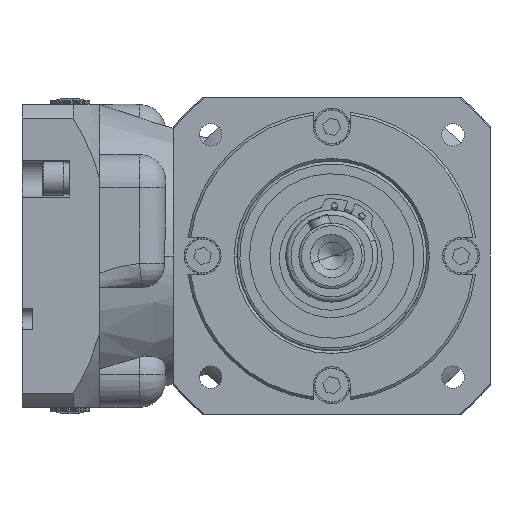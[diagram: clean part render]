
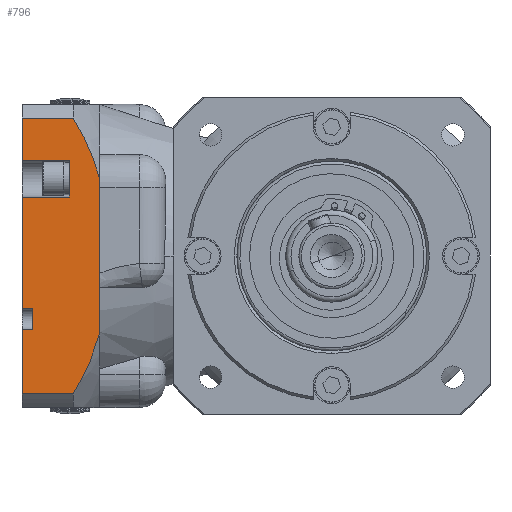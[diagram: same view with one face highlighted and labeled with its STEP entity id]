
A CAD part, left-side view. The second image highlights one B-rep face of the part: STEP entity #796.
In plain terms, the highlighted planar face has unit normal (-1, 0, 0).
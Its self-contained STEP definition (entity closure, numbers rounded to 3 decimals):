
#209 = CARTESIAN_POINT ( 'NONE',  ( 85., 117.5, 22.375 ) ) ;
#796 = ADVANCED_FACE ( 'NONE', ( #17863 ), #23139, .F. ) ;
#875 = EDGE_CURVE ( 'NONE', #26707, #29066, #37327, .T. ) ;
#916 = CARTESIAN_POINT ( 'NONE',  ( 85., 88., -29.16 ) ) ;
#958 = ORIENTED_EDGE ( 'NONE', *, *, #6795, .F. ) ;
#1107 = LINE ( 'NONE', #7243, #8616 ) ;
#1321 = CARTESIAN_POINT ( 'NONE',  ( 85., 89.223, -33.236 ) ) ;
#1537 = CARTESIAN_POINT ( 'NONE',  ( 85., 90.608, 37.231 ) ) ;
#1970 = EDGE_CURVE ( 'NONE', #12283, #29655, #33863, .T. ) ;
#2016 = CARTESIAN_POINT ( 'NONE',  ( 85., 93.885, -45.001 ) ) ;
#2153 = LINE ( 'NONE', #19684, #12631 ) ;
#2265 = DIRECTION ( 'NONE',  ( 0., -1., 0. ) ) ;
#2478 = EDGE_CURVE ( 'NONE', #4748, #4995, #39334, .T. ) ;
#2595 = DIRECTION ( 'NONE',  ( 0., -1., 0. ) ) ;
#2814 = CARTESIAN_POINT ( 'NONE',  ( 85., 117.5, -20. ) ) ;
#3881 = CARTESIAN_POINT ( 'NONE',  ( 85., 99.5, 22.375 ) ) ;
#4405 = CARTESIAN_POINT ( 'NONE',  ( 85., 113.5, -20. ) ) ;
#4439 = VERTEX_POINT ( 'NONE', #15933 ) ;
#4597 = LINE ( 'NONE', #24672, #21617 ) ;
#4730 = CARTESIAN_POINT ( 'NONE',  ( 85., 89.551, 34.223 ) ) ;
#4748 = VERTEX_POINT ( 'NONE', #39906 ) ;
#4995 = VERTEX_POINT ( 'NONE', #4405 ) ;
#5149 = CARTESIAN_POINT ( 'NONE',  ( 85., 88., 29.16 ) ) ;
#5931 = CARTESIAN_POINT ( 'NONE',  ( 85., 117.5, 52.334 ) ) ;
#6166 = B_SPLINE_CURVE_WITH_KNOTS ( 'NONE', 3,
 ( #17731, #8224, #33743, #30132, #1537, #4730, #11173, #24042, #40057, #5149 ),
 .UNSPECIFIED., .F., .F.,
 ( 4, 2, 2, 2, 4 ),
 ( 0.463, 0.475, 0.481, 0.485, 0.488 ),
 .UNSPECIFIED. ) ;
#6795 = EDGE_CURVE ( 'NONE', #24642, #4995, #2153, .T. ) ;
#6932 = VECTOR ( 'NONE', #34200, 1000. ) ;
#7118 = LINE ( 'NONE', #31047, #26613 ) ;
#7240 = EDGE_CURVE ( 'NONE', #15597, #29066, #7118, .T. ) ;
#7243 = CARTESIAN_POINT ( 'NONE',  ( 85., 117.5, 57.5 ) ) ;
#7469 = DIRECTION ( 'NONE',  ( 0., 1., 0. ) ) ;
#7590 = VECTOR ( 'NONE', #7469, 1000. ) ;
#8224 = CARTESIAN_POINT ( 'NONE',  ( 85., 95.834, 48.749 ) ) ;
#8596 = LINE ( 'NONE', #23545, #7590 ) ;
#8616 = VECTOR ( 'NONE', #29296, 1000. ) ;
#8749 = DIRECTION ( 'NONE',  ( 0., 0., 1. ) ) ;
#8974 = ORIENTED_EDGE ( 'NONE', *, *, #23048, .F. ) ;
#9141 = DIRECTION ( 'NONE',  ( 0., -1., 0. ) ) ;
#9939 = CARTESIAN_POINT ( 'NONE',  ( 85., 98.069, 52.334 ) ) ;
#10127 = ORIENTED_EDGE ( 'NONE', *, *, #28875, .T. ) ;
#10419 = LINE ( 'NONE', #31027, #6932 ) ;
#11173 = CARTESIAN_POINT ( 'NONE',  ( 85., 89.216, 33.213 ) ) ;
#12112 = EDGE_CURVE ( 'NONE', #32319, #4439, #4597, .T. ) ;
#12143 = CARTESIAN_POINT ( 'NONE',  ( 85., 117.5, 22.375 ) ) ;
#12283 = VERTEX_POINT ( 'NONE', #29520 ) ;
#12631 = VECTOR ( 'NONE', #38634, 1000. ) ;
#14142 = CARTESIAN_POINT ( 'NONE',  ( 85., 113.5, -28. ) ) ;
#14563 = EDGE_CURVE ( 'NONE', #38736, #20437, #20459, .T. ) ;
#14588 = CARTESIAN_POINT ( 'NONE',  ( 85., 89.557, -34.242 ) ) ;
#14865 = CARTESIAN_POINT ( 'NONE',  ( 85., 98.069, -52.334 ) ) ;
#15261 = ORIENTED_EDGE ( 'NONE', *, *, #26403, .F. ) ;
#15597 = VERTEX_POINT ( 'NONE', #31942 ) ;
#15933 = CARTESIAN_POINT ( 'NONE',  ( 85., 117.5, -28. ) ) ;
#16562 = CARTESIAN_POINT ( 'NONE',  ( 85., 88., 29.16 ) ) ;
#17104 = CARTESIAN_POINT ( 'NONE',  ( 85., 88.285, -30.186 ) ) ;
#17526 = CARTESIAN_POINT ( 'NONE',  ( 85., 90.61, -37.237 ) ) ;
#17649 = EDGE_LOOP ( 'NONE', ( #35452, #40452, #15261, #24015, #41113, #40885, #33299, #10127, #26900, #25967, #958, #28985, #41101, #8974 ) ) ;
#17731 = CARTESIAN_POINT ( 'NONE',  ( 85., 98.069, 52.334 ) ) ;
#17863 = FACE_OUTER_BOUND ( 'NONE', #17649, .T. ) ;
#18379 = VECTOR ( 'NONE', #2265, 1000. ) ;
#19684 = CARTESIAN_POINT ( 'NONE',  ( 85., 113.5, 57.5 ) ) ;
#19687 = AXIS2_PLACEMENT_3D ( 'NONE', #32580, #19922, #38867 ) ;
#19726 = EDGE_CURVE ( 'NONE', #15597, #38736, #1107, .T. ) ;
#19922 = DIRECTION ( 'NONE',  ( 1., 0., 0. ) ) ;
#20191 = CARTESIAN_POINT ( 'NONE',  ( 85., 88.587, -31.209 ) ) ;
#20437 = VERTEX_POINT ( 'NONE', #9939 ) ;
#20459 = LINE ( 'NONE', #31059, #30929 ) ;
#21617 = VECTOR ( 'NONE', #8749, 1000. ) ;
#22721 = VERTEX_POINT ( 'NONE', #209 ) ;
#22811 = CARTESIAN_POINT ( 'NONE',  ( 85., 117.5, 57.5 ) ) ;
#23048 = EDGE_CURVE ( 'NONE', #26360, #32319, #10419, .T. ) ;
#23139 = PLANE ( 'NONE',  #19687 ) ;
#23151 = LINE ( 'NONE', #22811, #29594 ) ;
#23545 = CARTESIAN_POINT ( 'NONE',  ( 85., 117.5, -28. ) ) ;
#24015 = ORIENTED_EDGE ( 'NONE', *, *, #14563, .F. ) ;
#24042 = CARTESIAN_POINT ( 'NONE',  ( 85., 88.582, 31.191 ) ) ;
#24522 = CARTESIAN_POINT ( 'NONE',  ( 85., 99.5, 57.5 ) ) ;
#24642 = VERTEX_POINT ( 'NONE', #14142 ) ;
#24672 = CARTESIAN_POINT ( 'NONE',  ( 85., 117.5, 57.5 ) ) ;
#25967 = ORIENTED_EDGE ( 'NONE', *, *, #2478, .T. ) ;
#26303 = LINE ( 'NONE', #12143, #31753 ) ;
#26360 = VERTEX_POINT ( 'NONE', #39642 ) ;
#26403 = EDGE_CURVE ( 'NONE', #20437, #29655, #6166, .T. ) ;
#26613 = VECTOR ( 'NONE', #9141, 1000. ) ;
#26707 = VERTEX_POINT ( 'NONE', #3881 ) ;
#26876 = CARTESIAN_POINT ( 'NONE',  ( 85., 117.5, -52.334 ) ) ;
#26900 = ORIENTED_EDGE ( 'NONE', *, *, #31067, .F. ) ;
#28875 = EDGE_CURVE ( 'NONE', #26707, #22721, #26303, .T. ) ;
#28985 = ORIENTED_EDGE ( 'NONE', *, *, #32184, .T. ) ;
#29066 = VERTEX_POINT ( 'NONE', #35439 ) ;
#29193 = DIRECTION ( 'NONE',  ( 0., 0., 1. ) ) ;
#29296 = DIRECTION ( 'NONE',  ( 0., 0., 1. ) ) ;
#29520 = CARTESIAN_POINT ( 'NONE',  ( 85., 88., -29.16 ) ) ;
#29594 = VECTOR ( 'NONE', #29193, 1000. ) ;
#29655 = VERTEX_POINT ( 'NONE', #16562 ) ;
#30132 = CARTESIAN_POINT ( 'NONE',  ( 85., 91.378, 39.203 ) ) ;
#30806 = B_SPLINE_CURVE_WITH_KNOTS ( 'NONE', 3,
 ( #916, #17104, #20191, #1321, #14588, #17526, #33663, #2016, #37051, #14865 ),
 .UNSPECIFIED., .F., .F.,
 ( 4, 2, 2, 2, 4 ),
 ( 0.029, 0.033, 0.036, 0.042, 0.055 ),
 .UNSPECIFIED. ) ;
#30929 = VECTOR ( 'NONE', #2595, 1000. ) ;
#31027 = CARTESIAN_POINT ( 'NONE',  ( 85., 68., -52.334 ) ) ;
#31047 = CARTESIAN_POINT ( 'NONE',  ( 85., 117.5, 36.375 ) ) ;
#31059 = CARTESIAN_POINT ( 'NONE',  ( 85., 68., 52.334 ) ) ;
#31067 = EDGE_CURVE ( 'NONE', #4748, #22721, #23151, .T. ) ;
#31753 = VECTOR ( 'NONE', #34719, 1000. ) ;
#31942 = CARTESIAN_POINT ( 'NONE',  ( 85., 117.5, 36.375 ) ) ;
#32184 = EDGE_CURVE ( 'NONE', #24642, #4439, #8596, .T. ) ;
#32319 = VERTEX_POINT ( 'NONE', #26876 ) ;
#32580 = CARTESIAN_POINT ( 'NONE',  ( 85., 117.5, 57.5 ) ) ;
#33299 = ORIENTED_EDGE ( 'NONE', *, *, #875, .F. ) ;
#33374 = DIRECTION ( 'NONE',  ( 0., 0., 1. ) ) ;
#33663 = CARTESIAN_POINT ( 'NONE',  ( 85., 91.378, -39.202 ) ) ;
#33743 = CARTESIAN_POINT ( 'NONE',  ( 85., 93.891, 45.013 ) ) ;
#33811 = VECTOR ( 'NONE', #40400, 1000. ) ;
#33863 = LINE ( 'NONE', #36594, #38354 ) ;
#34200 = DIRECTION ( 'NONE',  ( 0., 1., 0. ) ) ;
#34530 = EDGE_CURVE ( 'NONE', #12283, #26360, #30806, .T. ) ;
#34719 = DIRECTION ( 'NONE',  ( 0., 1., 0. ) ) ;
#35439 = CARTESIAN_POINT ( 'NONE',  ( 85., 99.5, 36.375 ) ) ;
#35452 = ORIENTED_EDGE ( 'NONE', *, *, #34530, .F. ) ;
#36594 = CARTESIAN_POINT ( 'NONE',  ( 85., 88., 57.5 ) ) ;
#37051 = CARTESIAN_POINT ( 'NONE',  ( 85., 95.828, -48.738 ) ) ;
#37327 = LINE ( 'NONE', #24522, #33811 ) ;
#38354 = VECTOR ( 'NONE', #33374, 1000. ) ;
#38634 = DIRECTION ( 'NONE',  ( 0., 0., 1. ) ) ;
#38736 = VERTEX_POINT ( 'NONE', #5931 ) ;
#38867 = DIRECTION ( 'NONE',  ( 0., 0., -1. ) ) ;
#39334 = LINE ( 'NONE', #2814, #18379 ) ;
#39642 = CARTESIAN_POINT ( 'NONE',  ( 85., 98.069, -52.334 ) ) ;
#39906 = CARTESIAN_POINT ( 'NONE',  ( 85., 117.5, -20. ) ) ;
#40057 = CARTESIAN_POINT ( 'NONE',  ( 85., 88.282, 30.177 ) ) ;
#40400 = DIRECTION ( 'NONE',  ( 0., 0., 1. ) ) ;
#40452 = ORIENTED_EDGE ( 'NONE', *, *, #1970, .T. ) ;
#40885 = ORIENTED_EDGE ( 'NONE', *, *, #7240, .T. ) ;
#41101 = ORIENTED_EDGE ( 'NONE', *, *, #12112, .F. ) ;
#41113 = ORIENTED_EDGE ( 'NONE', *, *, #19726, .F. ) ;
